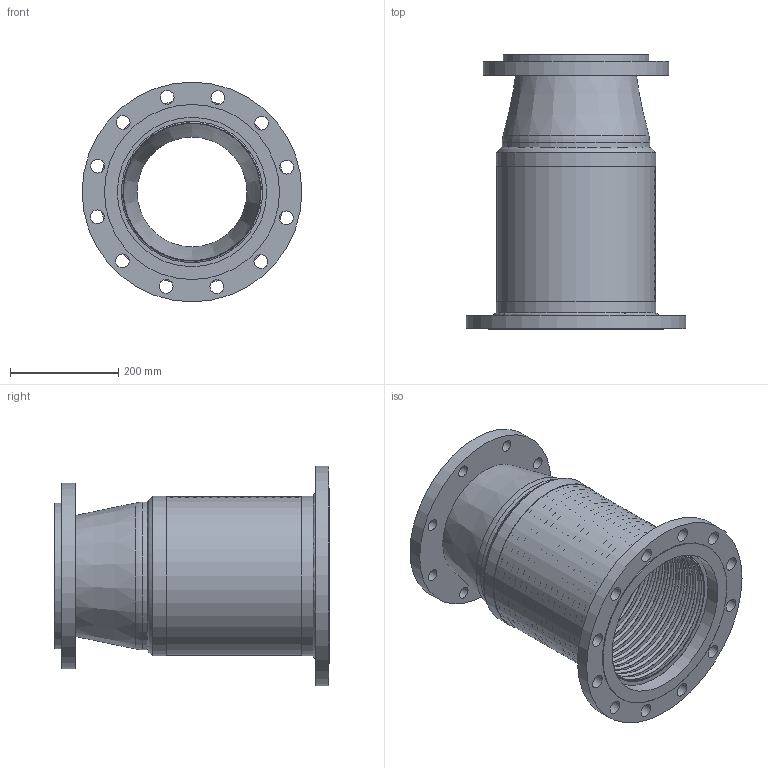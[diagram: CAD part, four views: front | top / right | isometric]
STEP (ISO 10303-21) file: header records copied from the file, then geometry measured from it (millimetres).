
FILE_DESCRIPTION((''),'2;1');
FILE_NAME('C:\2012_Work\Designs\RFFL\RFFL-10x8in.stp','2013-08-20T10:29:12',('KShiels'),(''),'Autodesk Inventor 2012','Autodesk Inventor 2012','');
FILE_SCHEMA(('AUTOMOTIVE_DESIGN { 1 0 10303 214 1 1 1 1 }'));
Length unit declared in the file: inch
Products named in the file (9): RFFL-10x8in; RFFL-10x8in_Welds; A-31006_10in_RFFL-BRAID; A-31006_10in_RFFL-BELLOWS; A-31006_10in_RFFL-BRAID-COLLAR; A-30988_10in-FIXED-FLANGE; A-30989_8in-FLOATING-FLANGE; A-30991_10x8in-REDUCER; A-30990_8in-WASHER
Assembly tree (9 placements, depth 2):
  RFFL-10x8in
    RFFL-10x8in_Welds
    A-31006_10in_RFFL-BRAID
    A-31006_10in_RFFL-BELLOWS
    A-31006_10in_RFFL-BRAID-COLLAR  x2
    A-30988_10in-FIXED-FLANGE
    A-30989_8in-FLOATING-FLANGE
    A-30991_10x8in-REDUCER
    A-30990_8in-WASHER
Bounding box: 406.39 x 508.21 x 406.39 mm (x, y, z)
Volume: 4978334.7 mm3; surface area: 2991787.3 mm2
Topology: 11 solids, 11 shells, 240 faces, 428 edges, 292 vertices
Faces by surface type: plane 104, torus 88, cylinder 40, cone 5, bspline 3
Full cylindrical faces by diameter (mm): 22.225 x8, 25.4 x12, 203.2 x1, 219.558 x1, 222.25 x3, 254 x1, 269.875 x1, 272.542 x2, 276.225 x1, 291.084 x1, 292.303 x3, 294.684 x3, 323.85 x1, 342.9 x1, 406.4 x1
Entity records: 6213 total; most frequent: CARTESIAN_POINT 1630, DIRECTION 1002, ORIENTED_EDGE 530, EDGE_LOOP 509, AXIS2_PLACEMENT_3D 501, FACE_BOUND 273, EDGE_CURVE 265, VERTEX_POINT 262
